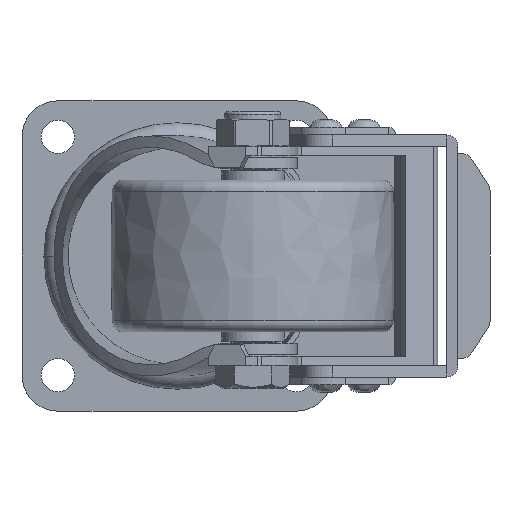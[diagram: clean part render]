
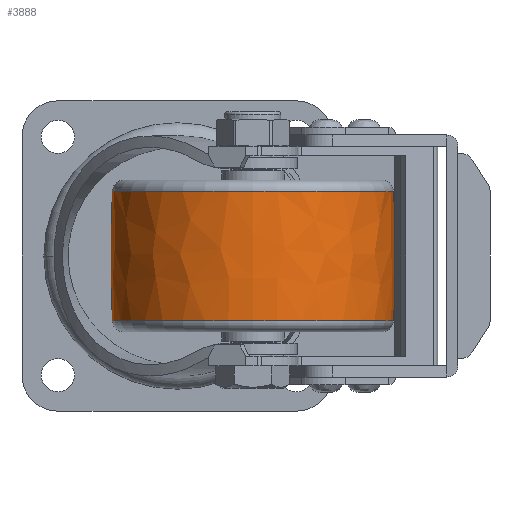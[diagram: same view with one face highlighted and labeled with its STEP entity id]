
A CAD part, front view. The second image highlights one B-rep face of the part: STEP entity #3888.
In plain terms, the highlighted free-form (B-spline) face has degree [3, 3] with [7, 4] control points.
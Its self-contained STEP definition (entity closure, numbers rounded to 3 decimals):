
#3656=CARTESIAN_POINT('',(0.,-362.75,0.));
#3657=DIRECTION('',(0.,0.,1.));
#3658=DIRECTION('',(0.043,0.999,0.));
#3659=AXIS2_PLACEMENT_3D('',#3656,#3657,#3658);
#3661=CARTESIAN_POINT('',(0.,362.75,0.));
#3662=DIRECTION('',(0.,0.,-1.));
#3663=DIRECTION('',(0.043,-0.999,0.));
#3664=AXIS2_PLACEMENT_3D('',#3661,#3662,#3663);
#3666=CARTESIAN_POINT('',(17.128,0.,0.));
#3667=DIRECTION('',(-1.,0.,0.));
#3668=DIRECTION('',(0.,1.,0.));
#3669=AXIS2_PLACEMENT_3D('',#3666,#3667,#3668);
#3691=CARTESIAN_POINT('',(-17.128,0.,0.));
#3692=DIRECTION('',(-1.,0.,0.));
#3693=DIRECTION('',(0.,1.,0.));
#3694=AXIS2_PLACEMENT_3D('',#3691,#3692,#3693);
#3749=CARTESIAN_POINT('',(17.128,37.133,0.));
#3751=VERTEX_POINT('',#3749);
#3752=CARTESIAN_POINT('',(-17.128,37.133,0.));
#3753=VERTEX_POINT('',#3752);
#3765=CARTESIAN_POINT('',(17.128,-37.133,0.));
#3767=VERTEX_POINT('',#3765);
#3768=CARTESIAN_POINT('',(-17.128,-37.133,0.));
#3769=VERTEX_POINT('',#3768);
#3850=CARTESIAN_POINT('',(-17.813,-37.03,
2.33));
#3851=CARTESIAN_POINT('',(-5.942,-37.558,
2.363));
#3852=CARTESIAN_POINT('',(5.942,-37.558,2.363));
#3853=CARTESIAN_POINT('',(17.813,-37.03,2.33));
#3854=CARTESIAN_POINT('',(-17.813,-38.464,
-20.459));
#3855=CARTESIAN_POINT('',(-5.942,-39.012,
-20.75));
#3856=CARTESIAN_POINT('',(5.942,-39.012,
-20.75));
#3857=CARTESIAN_POINT('',(17.813,-38.464,
-20.459));
#3858=CARTESIAN_POINT('',(-17.813,-22.833,
-37.103));
#3859=CARTESIAN_POINT('',(-5.942,-23.159,
-37.632));
#3860=CARTESIAN_POINT('',(5.942,-23.159,
-37.632));
#3861=CARTESIAN_POINT('',(17.813,-22.833,
-37.103));
#3862=CARTESIAN_POINT('',(-17.813,0.,
-37.103));
#3863=CARTESIAN_POINT('',(-5.942,0.,
-37.632));
#3864=CARTESIAN_POINT('',(5.942,0.,
-37.632));
#3865=CARTESIAN_POINT('',(17.813,0.,
-37.103));
#3866=CARTESIAN_POINT('',(-17.813,22.833,
-37.103));
#3867=CARTESIAN_POINT('',(-5.942,23.159,
-37.632));
#3868=CARTESIAN_POINT('',(5.942,23.159,-37.632));
#3869=CARTESIAN_POINT('',(17.813,22.833,-37.103));
#3870=CARTESIAN_POINT('',(-17.813,38.464,
-20.459));
#3871=CARTESIAN_POINT('',(-5.942,39.012,
-20.75));
#3872=CARTESIAN_POINT('',(5.942,39.012,-20.75));
#3873=CARTESIAN_POINT('',(17.813,38.464,-20.459));
#3874=CARTESIAN_POINT('',(-17.813,37.03,2.33));
#3875=CARTESIAN_POINT('',(-5.942,37.558,2.363));
#3876=CARTESIAN_POINT('',(5.942,37.558,2.363));
#3877=CARTESIAN_POINT('',(17.813,37.03,2.33));
#3878=(BOUNDED_SURFACE()B_SPLINE_SURFACE(3,3,((#3850,#3851,#3852,#3853),(#3854,
#3855,#3856,#3857),(#3858,#3859,#3860,#3861),(#3862,#3863,#3864,#3865),(#3866,
#3867,#3868,#3869),(#3870,#3871,#3872,#3873),(#3874,#3875,#3876,#3877)),
.UNSPECIFIED.,.F.,.F.,.F.)B_SPLINE_SURFACE_WITH_KNOTS((4,3,4),(4,4),(0.,1.,
2.),(0.,1.),.UNSPECIFIED.)GEOMETRIC_REPRESENTATION_ITEM()RATIONAL_B_SPLINE_SURFACE(((1.188,1.187,1.187,1.188),(
0.938,0.937,0.937,0.938),(
0.938,0.937,0.937,0.938),(
1.188,1.187,1.187,1.188),(
0.938,0.937,0.937,0.938),(
0.938,0.937,0.937,0.938),(
1.188,1.187,1.187,1.188)))REPRESENTATION_ITEM('')SURFACE());
#3880=ORIENTED_EDGE('',*,*,#3879,.T.);
#3882=ORIENTED_EDGE('',*,*,#3881,.T.);
#3884=ORIENTED_EDGE('',*,*,#3883,.F.);
#3885=ORIENTED_EDGE('',*,*,#3843,.F.);
#3886=EDGE_LOOP('',(#3880,#3882,#3884,#3885));
#3887=FACE_OUTER_BOUND('',#3886,.F.);
#3660=CIRCLE('',#3659,400.25);
#3665=CIRCLE('',#3664,400.25);
#3670=CIRCLE('',#3669,37.133);
#3695=CIRCLE('',#3694,37.133);
#3843=EDGE_CURVE('',#3751,#3767,#3670,.T.);
#3879=EDGE_CURVE('',#3751,#3753,#3660,.T.);
#3881=EDGE_CURVE('',#3753,#3769,#3695,.T.);
#3883=EDGE_CURVE('',#3767,#3769,#3665,.T.);
#3888=ADVANCED_FACE('',(#3887),#3878,.T.);
